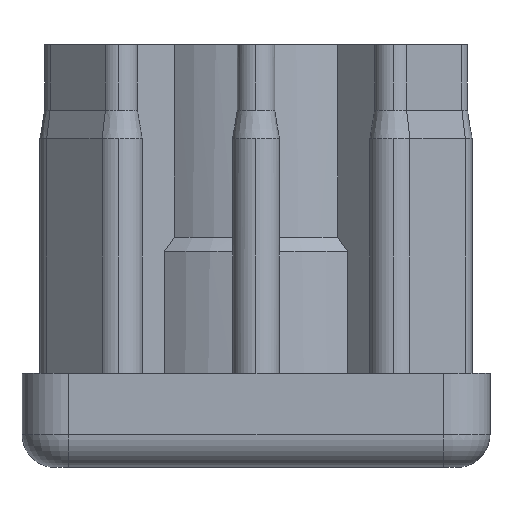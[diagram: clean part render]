
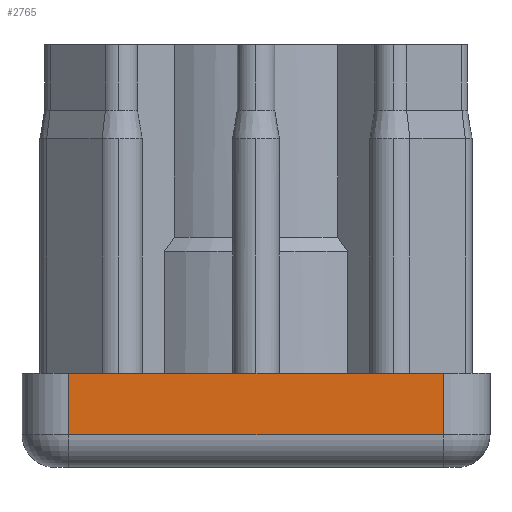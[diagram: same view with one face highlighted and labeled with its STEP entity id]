
A CAD part, left-side view. The second image highlights one B-rep face of the part: STEP entity #2765.
In plain terms, the highlighted planar face has unit normal (-1, 0, 0).
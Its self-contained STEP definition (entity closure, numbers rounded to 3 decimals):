
#45 = CARTESIAN_POINT ( 'NONE',  ( -24.9, -19.9, 0. ) ) ;
#215 = CARTESIAN_POINT ( 'NONE',  ( -24.9, 19.9, 0. ) ) ;
#289 = CARTESIAN_POINT ( 'NONE',  ( -24.9, -24.9, -6.5 ) ) ;
#436 = LINE ( 'NONE', #289, #4989 ) ;
#507 = VECTOR ( 'NONE', #3629, 1000. ) ;
#586 = CARTESIAN_POINT ( 'NONE',  ( -24.9, -24.9, 0. ) ) ;
#778 = VERTEX_POINT ( 'NONE', #2577 ) ;
#853 = LINE ( 'NONE', #959, #507 ) ;
#870 = EDGE_CURVE ( 'NONE', #2848, #4374, #5235, .T. ) ;
#959 = CARTESIAN_POINT ( 'NONE',  ( -24.9, 19.9, -10. ) ) ;
#1145 = CARTESIAN_POINT ( 'NONE',  ( -24.9, -24.9, -10. ) ) ;
#1350 = ORIENTED_EDGE ( 'NONE', *, *, #870, .T. ) ;
#1625 = DIRECTION ( 'NONE',  ( 1., 0., 0. ) ) ;
#1785 = ORIENTED_EDGE ( 'NONE', *, *, #4974, .T. ) ;
#1815 = ORIENTED_EDGE ( 'NONE', *, *, #4480, .T. ) ;
#2120 = CARTESIAN_POINT ( 'NONE',  ( -24.9, -19.9, -6.5 ) ) ;
#2129 = CARTESIAN_POINT ( 'NONE',  ( -24.9, -19.9, -10. ) ) ;
#2559 = DIRECTION ( 'NONE',  ( 0., 0., 1. ) ) ;
#2568 = EDGE_CURVE ( 'NONE', #4374, #5305, #5154, .T. ) ;
#2577 = CARTESIAN_POINT ( 'NONE',  ( -24.9, 19.9, -6.5 ) ) ;
#2765 = ADVANCED_FACE ( 'NONE', ( #5211 ), #3741, .F. ) ;
#2777 = AXIS2_PLACEMENT_3D ( 'NONE', #1145, #1625, #5126 ) ;
#2848 = VERTEX_POINT ( 'NONE', #2120 ) ;
#3629 = DIRECTION ( 'NONE',  ( 0., 0., -1. ) ) ;
#3741 = PLANE ( 'NONE',  #2777 ) ;
#3926 = VECTOR ( 'NONE', #2559, 1000. ) ;
#4103 = ORIENTED_EDGE ( 'NONE', *, *, #2568, .T. ) ;
#4207 = DIRECTION ( 'NONE',  ( 0., -1., 0. ) ) ;
#4374 = VERTEX_POINT ( 'NONE', #45 ) ;
#4480 = EDGE_CURVE ( 'NONE', #5305, #778, #853, .T. ) ;
#4877 = VECTOR ( 'NONE', #4964, 1000. ) ;
#4964 = DIRECTION ( 'NONE',  ( 0., 1., 0. ) ) ;
#4974 = EDGE_CURVE ( 'NONE', #778, #2848, #436, .T. ) ;
#4989 = VECTOR ( 'NONE', #4207, 1000. ) ;
#5093 = EDGE_LOOP ( 'NONE', ( #1815, #1785, #1350, #4103 ) ) ;
#5126 = DIRECTION ( 'NONE',  ( 0., 1., 0. ) ) ;
#5154 = LINE ( 'NONE', #586, #4877 ) ;
#5211 = FACE_OUTER_BOUND ( 'NONE', #5093, .T. ) ;
#5235 = LINE ( 'NONE', #2129, #3926 ) ;
#5305 = VERTEX_POINT ( 'NONE', #215 ) ;
